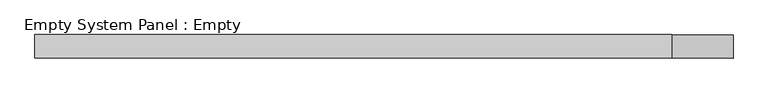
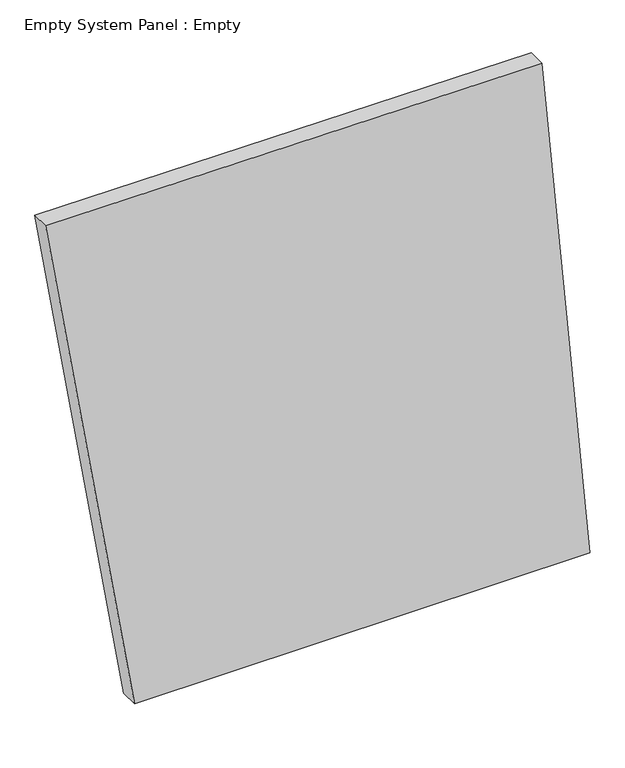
"""IFC4 building model written with IfcOpenShell, lengths in millimetres: plate geometry, Empty System Panel : Empty."""

from ifc_helpers import new_model, si_unit, frame, origin, place, context, project, spatial, polyline, outline, extrude, source, transform, mapped, element, save


def empty_system_panel_empty_2eac9b77(model_context):
    return source(origin(), model_context, "Body", "SweptSolid", [
        extrude(outline(polyline([(0.0, -1015.8050437), (0.0, 1508.8220269), (2959.6011381, 1243.156038), (2969.8618147, -1508.8220269), (0.0, -1015.8050437)])), frame((0.0, -50.8, 0.0), z_axis=(0.0, 1.0, 0.0), x_axis=(0.0, 0.0, 1.0)), (0.0, 0.0, 1.0), 101.6),
    ])


if __name__ == "__main__":
    model = new_model("IFC4")
    model_context = context("Model", 3, world=origin())
    ifc_project = project(units=[si_unit("LENGTHUNIT", "METRE", prefix="MILLI")], contexts=[model_context])
    site = spatial("IfcSite", under=ifc_project)
    building = spatial("IfcBuilding", under=site)
    placement = place(None, origin())
    empty_system_panel_empty_shape = empty_system_panel_empty_2eac9b77(model_context)
    element("IfcPlate", 1, ObjectType="Empty System Panel : Empty", at=placement, inside=building, context=model_context, shape_type="MappedRepresentation", body=[
        mapped(empty_system_panel_empty_shape, transform((0.0, 0.0, 0.0), x_axis=(1.0, 0.0, 0.0), y_axis=(0.0, 1.0, 0.0), z_axis=(0.0, 0.0, 1.0))),
    ])
    save(model, "model.ifc")
